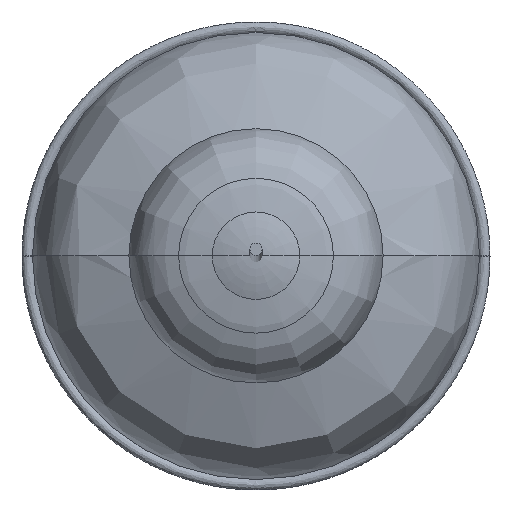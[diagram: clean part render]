
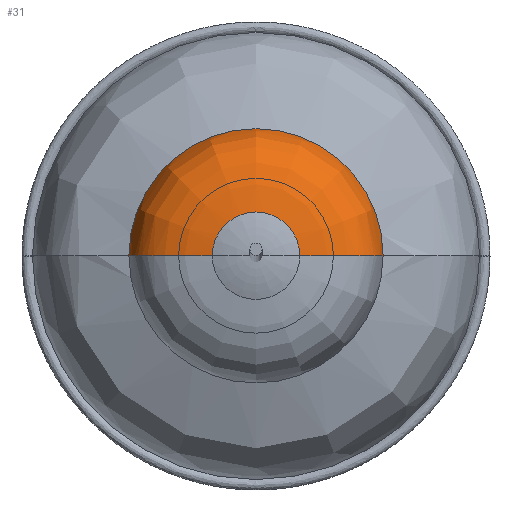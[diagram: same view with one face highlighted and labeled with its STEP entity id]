
A CAD part, top view. The second image highlights one B-rep face of the part: STEP entity #31.
In plain terms, the highlighted free-form (B-spline) face has degree [2, 5] with [5, 7] control points.
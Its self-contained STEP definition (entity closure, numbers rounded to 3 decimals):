
#31=ADVANCED_FACE('',(#49),#277,.T.);
#49=FACE_OUTER_BOUND('',#67,.T.);
#67=EDGE_LOOP('',(#108,#109,#110,#111));
#108=ORIENTED_EDGE('',*,*,#164,.T.);
#109=ORIENTED_EDGE('',*,*,#152,.T.);
#110=ORIENTED_EDGE('',*,*,#159,.F.);
#111=ORIENTED_EDGE('',*,*,#165,.F.);
#152=EDGE_CURVE('',#245,#244,#186,.T.);
#159=EDGE_CURVE('',#247,#244,#204,.T.);
#164=EDGE_CURVE('',#251,#245,#207,.T.);
#165=EDGE_CURVE('',#251,#247,#191,.T.);
#186=(
BOUNDED_CURVE()
B_SPLINE_CURVE(5,(#960,#961,#962,#963,#964,#965,#966),.UNSPECIFIED.,.F.,
 .F.)
B_SPLINE_CURVE_WITH_KNOTS((6,1,6),(48.826,62.021,121.553),
 .UNSPECIFIED.)
CURVE()
GEOMETRIC_REPRESENTATION_ITEM()
RATIONAL_B_SPLINE_CURVE((1.,1.,1.,1.,1.,1.,1.))
REPRESENTATION_ITEM('')
);
#191=(
BOUNDED_CURVE()
B_SPLINE_CURVE(5,(#1040,#1041,#1042,#1043,#1044,#1045,#1046),
 .UNSPECIFIED.,.F.,.F.)
B_SPLINE_CURVE_WITH_KNOTS((6,1,6),(48.826,62.021,121.553),
 .UNSPECIFIED.)
CURVE()
GEOMETRIC_REPRESENTATION_ITEM()
RATIONAL_B_SPLINE_CURVE((1.,1.,1.,1.,1.,1.,1.))
REPRESENTATION_ITEM('')
);
#204=TRIMMED_CURVE($,#226,(#1017),(#1018),.T.,.CARTESIAN.);
#207=TRIMMED_CURVE($,#229,(#1038),(#1039),.T.,.CARTESIAN.);
#226=CIRCLE('',#374,68.338);
#229=CIRCLE('',#377,23.5);
#244=VERTEX_POINT('',#909);
#245=VERTEX_POINT('',#910);
#247=VERTEX_POINT('',#912);
#251=VERTEX_POINT('',#916);
#277=(
BOUNDED_SURFACE()
B_SPLINE_SURFACE(2,5,((#872,#873,#874,#875,#876,#877,#878),(#879,#880,#881,
#882,#883,#884,#885),(#886,#887,#888,#889,#890,#891,#892),(#893,#894,#895,
#896,#897,#898,#899),(#900,#901,#902,#903,#904,#905,#906)),
 .UNSPECIFIED.,.F.,.F.,.F.)
B_SPLINE_SURFACE_WITH_KNOTS((3,2,3),(6,1,6),(394.22,591.33,
788.44),(48.826,62.021,121.553),
 .UNSPECIFIED.)
GEOMETRIC_REPRESENTATION_ITEM()
RATIONAL_B_SPLINE_SURFACE(((1.,1.,1.,1.,1.,1.,1.),(0.707,0.707,
0.707,0.707,0.707,0.707,
0.707),(1.,1.,1.,1.,1.,1.,1.),(0.707,0.707,
0.707,0.707,0.707,0.707,
0.707),(1.,1.,1.,1.,1.,1.,1.)))
REPRESENTATION_ITEM('')
SURFACE()
);
#374=AXIS2_PLACEMENT_3D($,#1016,#418,#419);
#377=AXIS2_PLACEMENT_3D($,#1037,#424,#425);
#418=DIRECTION('',(0.,0.,-1.));
#419=DIRECTION('',(-1.,0.,0.));
#424=DIRECTION('',(0.,0.,-1.));
#425=DIRECTION('',(-1.,0.,0.));
#872=CARTESIAN_POINT('',(-23.501,0.,-4.864));
#873=CARTESIAN_POINT('',(-27.022,0.,-5.28));
#874=CARTESIAN_POINT('',(-45.728,0.,-8.029));
#875=CARTESIAN_POINT('',(-59.686,0.,-13.305));
#876=CARTESIAN_POINT('',(-65.021,0.,-21.19));
#877=CARTESIAN_POINT('',(-67.32,0.,-31.891));
#878=CARTESIAN_POINT('',(-68.338,0.,-41.13));
#879=CARTESIAN_POINT('',(-23.501,23.5,-4.864));
#880=CARTESIAN_POINT('',(-27.022,27.022,-5.28));
#881=CARTESIAN_POINT('',(-45.728,45.728,-8.029));
#882=CARTESIAN_POINT('',(-59.686,59.685,-13.305));
#883=CARTESIAN_POINT('',(-65.021,65.02,-21.19));
#884=CARTESIAN_POINT('',(-67.32,67.32,-31.891));
#885=CARTESIAN_POINT('',(-68.338,68.338,-41.13));
#886=CARTESIAN_POINT('',(0.,23.5,-4.864));
#887=CARTESIAN_POINT('',(0.,27.022,-5.28));
#888=CARTESIAN_POINT('',(0.,45.728,-8.029));
#889=CARTESIAN_POINT('',(0.,59.685,-13.305));
#890=CARTESIAN_POINT('',(0.,65.02,-21.19));
#891=CARTESIAN_POINT('',(0.,67.32,-31.891));
#892=CARTESIAN_POINT('',(0.,68.338,-41.13));
#893=CARTESIAN_POINT('',(23.5,23.5,-4.864));
#894=CARTESIAN_POINT('',(27.021,27.022,-5.28));
#895=CARTESIAN_POINT('',(45.727,45.728,-8.029));
#896=CARTESIAN_POINT('',(59.685,59.685,-13.305));
#897=CARTESIAN_POINT('',(65.02,65.02,-21.19));
#898=CARTESIAN_POINT('',(67.319,67.32,-31.891));
#899=CARTESIAN_POINT('',(68.337,68.338,-41.13));
#900=CARTESIAN_POINT('',(23.5,0.,-4.864));
#901=CARTESIAN_POINT('',(27.021,0.,-5.28));
#902=CARTESIAN_POINT('',(45.727,0.,-8.029));
#903=CARTESIAN_POINT('',(59.685,0.,-13.305));
#904=CARTESIAN_POINT('',(65.02,0.,-21.19));
#905=CARTESIAN_POINT('',(67.319,0.,-31.891));
#906=CARTESIAN_POINT('',(68.337,0.,-41.13));
#909=CARTESIAN_POINT('',(68.337,0.,-41.13));
#910=CARTESIAN_POINT('',(23.5,0.,-4.864));
#912=CARTESIAN_POINT('',(-68.338,0.,-41.13));
#916=CARTESIAN_POINT('',(-23.501,0.,-4.864));
#960=CARTESIAN_POINT('',(23.5,0.,-4.864));
#961=CARTESIAN_POINT('',(27.021,0.,-5.28));
#962=CARTESIAN_POINT('',(45.727,0.,-8.029));
#963=CARTESIAN_POINT('',(59.685,0.,-13.305));
#964=CARTESIAN_POINT('',(65.02,0.,-21.19));
#965=CARTESIAN_POINT('',(67.319,0.,-31.891));
#966=CARTESIAN_POINT('',(68.337,0.,-41.13));
#1016=CARTESIAN_POINT('',(0.,0.,-41.13));
#1017=CARTESIAN_POINT('',(-68.338,0.,-41.13));
#1018=CARTESIAN_POINT('',(68.337,0.,-41.13));
#1037=CARTESIAN_POINT('',(0.,0.,-4.864));
#1038=CARTESIAN_POINT('',(-23.501,0.,-4.864));
#1039=CARTESIAN_POINT('',(23.5,0.,-4.864));
#1040=CARTESIAN_POINT('',(-23.501,0.,-4.864));
#1041=CARTESIAN_POINT('',(-27.022,0.,-5.28));
#1042=CARTESIAN_POINT('',(-45.728,0.,-8.029));
#1043=CARTESIAN_POINT('',(-59.686,0.,-13.305));
#1044=CARTESIAN_POINT('',(-65.021,0.,-21.19));
#1045=CARTESIAN_POINT('',(-67.32,0.,-31.891));
#1046=CARTESIAN_POINT('',(-68.338,0.,-41.13));
